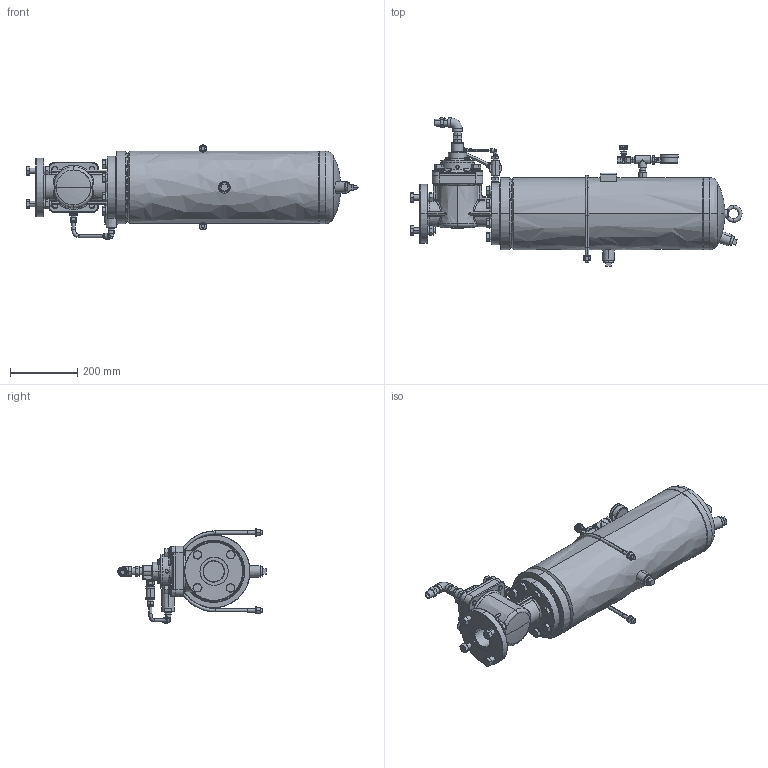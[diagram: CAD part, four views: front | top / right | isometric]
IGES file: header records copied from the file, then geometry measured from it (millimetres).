
Start section: SolidWorks IGES file using analytic representation for surfaces
Global section: file name: V:\WORK\08133\HP 寸法図\blaster\EDB2.5-20\test_873000T-000 EDB2.5-20_defeature.IGS,  ; native system: SolidWorks 2018; preprocessor: SolidWorks 2018; author: n-udagawa; date: 230118.150016; units: millimetre
Bounding box: 990.75 x 444.13 x 281.1 mm (x, y, z)
Surface area: 910958.4 mm2 (no closed solid volume)
Topology: 0 solids, 0 shells, 1745 faces, 31600 edges, 35730 vertices
Faces by surface type: revolution 875, bspline 870
